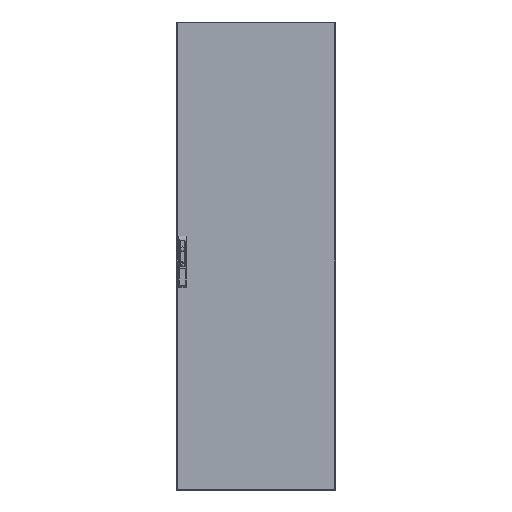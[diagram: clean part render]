
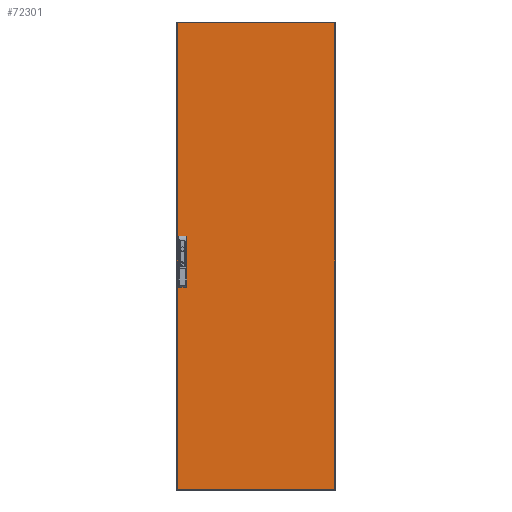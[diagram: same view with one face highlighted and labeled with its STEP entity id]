
A CAD part, top view. The second image highlights one B-rep face of the part: STEP entity #72301.
In plain terms, the highlighted planar face has unit normal (0, 0, 1).
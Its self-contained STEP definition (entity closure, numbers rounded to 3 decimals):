
#71921=CARTESIAN_POINT(' ',(294.4,874.9,0.));
#71922=VERTEX_POINT(' ',#71921);
#71941=CARTESIAN_POINT(' ',(294.4,-874.9,0.));
#71946=DIRECTION(' ',(0.,1.,0.));
#71951=VECTOR(' ',#71946,1.);
#71956=LINE('',#71941,#71951);
#71961=CARTESIAN_POINT(' ',(294.4,-874.9,0.));
#71962=VERTEX_POINT(' ',#71961);
#71966=EDGE_CURVE(' ',#71962,#71922,#71956,.T.);
#72161=DIRECTION(' ',(0.,0.,1.));
#72166=CARTESIAN_POINT(' ',(294.4,-874.9,0.));
#72171=DIRECTION(' ',(0.,1.,0.));
#72176=AXIS2_PLACEMENT_3D(' ',#72166,#72161,#72171);
#72181=PLANE('NONE',#72176);
#72186=CARTESIAN_POINT(' ',(-294.4,-874.9,0.));
#72191=DIRECTION(' ',(1.,0.,0.));
#72196=VECTOR(' ',#72191,1.);
#72201=LINE('',#72186,#72196);
#72206=CARTESIAN_POINT(' ',(-294.4,-874.9,0.));
#72207=VERTEX_POINT(' ',#72206);
#72211=EDGE_CURVE(' ',#72207,#71962,#72201,.T.);
#72216=ORIENTED_EDGE(' ',*,*,#72211,.T.);
#72221=ORIENTED_EDGE(' ',*,*,#71966,.T.);
#72226=CARTESIAN_POINT(' ',(294.4,874.9,0.));
#72231=DIRECTION(' ',(-1.,0.,0.));
#72236=VECTOR(' ',#72231,1.);
#72241=LINE('',#72226,#72236);
#72246=CARTESIAN_POINT(' ',(-294.4,874.9,0.));
#72247=VERTEX_POINT(' ',#72246);
#72251=EDGE_CURVE(' ',#71922,#72247,#72241,.T.);
#72256=ORIENTED_EDGE(' ',*,*,#72251,.T.);
#72261=CARTESIAN_POINT(' ',(-294.4,874.9,0.));
#72266=DIRECTION(' ',(0.,-1.,0.));
#72271=VECTOR(' ',#72266,1.);
#72276=LINE('',#72261,#72271);
#72281=EDGE_CURVE(' ',#72247,#72207,#72276,.T.);
#72286=ORIENTED_EDGE(' ',*,*,#72281,.T.);
#72291=EDGE_LOOP(' ',(#72216,#72221,#72256,#72286));
#72296=FACE_OUTER_BOUND(' ',#72291,.T.);
#72301=ADVANCED_FACE('NONE',(#72296),#72181,.T.);
